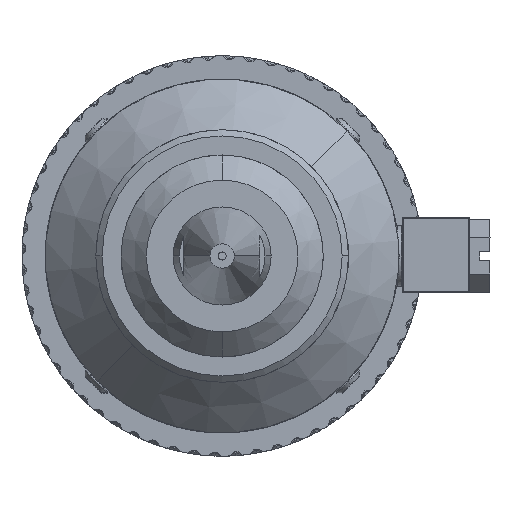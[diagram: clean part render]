
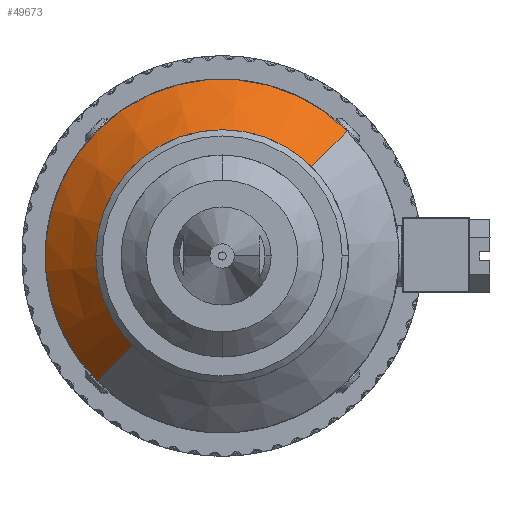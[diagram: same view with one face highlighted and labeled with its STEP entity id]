
A CAD part, front view. The second image highlights one B-rep face of the part: STEP entity #49673.
In plain terms, the highlighted conical face has half-angle 45 degrees and reference radius 15.875 mm.
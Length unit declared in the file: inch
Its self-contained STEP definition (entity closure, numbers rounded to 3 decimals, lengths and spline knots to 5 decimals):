
#2018 = LINE ( 'NONE', #64471, #49482 ) ;
#5207 = AXIS2_PLACEMENT_3D ( 'NONE', #61779, #61272, #68413 ) ;
#6035 = CARTESIAN_POINT ( 'NONE',  ( 0.60905, 0.24634, 0.61799 ) ) ;
#6776 = AXIS2_PLACEMENT_3D ( 'NONE', #66919, #32448, #8792 ) ;
#7786 = CARTESIAN_POINT ( 'NONE',  ( -0.45161, -0.00366, -0.44267 ) ) ;
#7867 = EDGE_CURVE ( 'NONE', #54890, #40481, #34609, .T. ) ;
#8792 = DIRECTION ( 'NONE',  ( 0.707, 0., 0.707 ) ) ;
#13094 = DIRECTION ( 'NONE',  ( -0.5, 0.707, -0.5 ) ) ;
#14999 = DIRECTION ( 'NONE',  ( 0., 1., 0. ) ) ;
#19148 = VERTEX_POINT ( 'NONE', #75708 ) ;
#19620 = VECTOR ( 'NONE', #13094, 39.37008 ) ;
#20191 = ORIENTED_EDGE ( 'NONE', *, *, #26204, .F. ) ;
#23766 = ORIENTED_EDGE ( 'NONE', *, *, #72278, .T. ) ;
#23800 = VERTEX_POINT ( 'NONE', #6035 ) ;
#24962 = EDGE_CURVE ( 'NONE', #23800, #19148, #67544, .T. ) ;
#26204 = EDGE_CURVE ( 'NONE', #40481, #19148, #52473, .T. ) ;
#32448 = DIRECTION ( 'NONE',  ( 0., -1., 0. ) ) ;
#34609 = CIRCLE ( 'NONE', #6776, 0.625 ) ;
#37452 = CARTESIAN_POINT ( 'NONE',  ( 0.43228, -0.00366, 0.44121 ) ) ;
#40481 = VERTEX_POINT ( 'NONE', #55006 ) ;
#44198 = CONICAL_SURFACE ( 'NONE', #55312, 0.625, 0.785 ) ;
#46506 = ORIENTED_EDGE ( 'NONE', *, *, #24962, .T. ) ;
#47326 = DIRECTION ( 'NONE',  ( 0.5, 0.707, 0.5 ) ) ;
#49482 = VECTOR ( 'NONE', #47326, 39.37008 ) ;
#49673 = ADVANCED_FACE ( 'NONE', ( #68909 ), #44198, .T. ) ;
#52473 = LINE ( 'NONE', #7786, #19620 ) ;
#52725 = ORIENTED_EDGE ( 'NONE', *, *, #7867, .F. ) ;
#54890 = VERTEX_POINT ( 'NONE', #37452 ) ;
#55006 = CARTESIAN_POINT ( 'NONE',  ( -0.45161, -0.00366, -0.44267 ) ) ;
#55312 = AXIS2_PLACEMENT_3D ( 'NONE', #56002, #14999, #62189 ) ;
#56002 = CARTESIAN_POINT ( 'NONE',  ( -0.00966, -0.00366, -0.00073 ) ) ;
#61272 = DIRECTION ( 'NONE',  ( 0., -1., 0. ) ) ;
#61779 = CARTESIAN_POINT ( 'NONE',  ( -0.00966, 0.24634, -0.00073 ) ) ;
#62189 = DIRECTION ( 'NONE',  ( -0.707, 0., -0.707 ) ) ;
#64471 = CARTESIAN_POINT ( 'NONE',  ( 0.43228, -0.00366, 0.44121 ) ) ;
#66919 = CARTESIAN_POINT ( 'NONE',  ( -0.00966, -0.00366, -0.00073 ) ) ;
#67544 = CIRCLE ( 'NONE', #5207, 0.875 ) ;
#68413 = DIRECTION ( 'NONE',  ( 0.707, 0., 0.707 ) ) ;
#68909 = FACE_OUTER_BOUND ( 'NONE', #72235, .T. ) ;
#72235 = EDGE_LOOP ( 'NONE', ( #52725, #23766, #46506, #20191 ) ) ;
#72278 = EDGE_CURVE ( 'NONE', #54890, #23800, #2018, .T. ) ;
#75708 = CARTESIAN_POINT ( 'NONE',  ( -0.62838, 0.24634, -0.61945 ) ) ;
